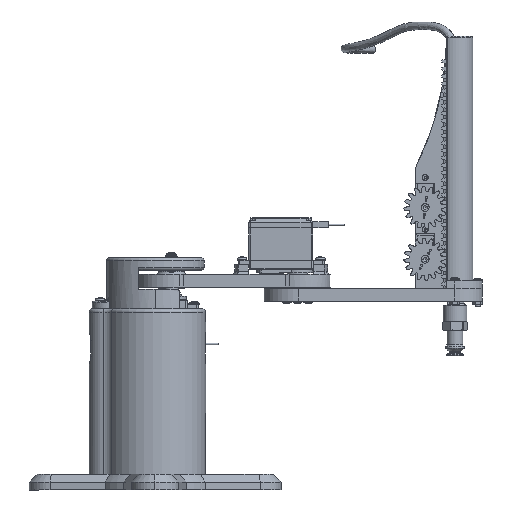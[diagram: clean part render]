
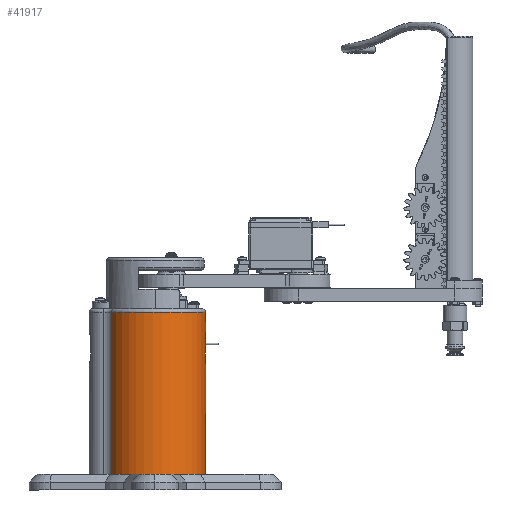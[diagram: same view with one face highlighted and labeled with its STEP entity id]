
A CAD part, front view. The second image highlights one B-rep face of the part: STEP entity #41917.
In plain terms, the highlighted cylindrical face has radius 32 mm (diameter 64 mm), a partial arc.
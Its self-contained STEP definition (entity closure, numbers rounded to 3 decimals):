
#2266=FACE_BOUND('',#13580,.T.);
#2580=B_SPLINE_CURVE_WITH_KNOTS('',3,(#60419,#60420,#60421,#60422,#60423,
#60424,#60425,#60426,#60427,#60428,#60429,#60430,#60431,#60432,#60433,#60434,
#60435,#60436),.UNSPECIFIED.,.F.,.F.,(4,2,2,2,2,2,2,2,4),(-1.509,
-1.321,-1.132,-0.943,-0.755,
-0.566,-0.377,-0.189,0.),
 .UNSPECIFIED.);
#2581=B_SPLINE_CURVE_WITH_KNOTS('',3,(#60439,#60440,#60441,#60442,#60443,
#60444,#60445,#60446,#60447,#60448,#60449,#60450,#60451,#60452,#60453,#60454,
#60455,#60456),.UNSPECIFIED.,.F.,.F.,(4,2,2,2,2,2,2,2,4),(0.,0.189,
0.377,0.566,0.755,0.943,
1.132,1.321,1.509),.UNSPECIFIED.);
#3501=LINE('',#60386,#7141);
#3506=LINE('',#60413,#7146);
#3507=LINE('',#60417,#7147);
#3508=LINE('',#60438,#7148);
#7141=VECTOR('',#48694,10.);
#7146=VECTOR('',#48719,10.);
#7147=VECTOR('',#48722,10.);
#7148=VECTOR('',#48723,10.);
#10779=CYLINDRICAL_SURFACE('',#44667,32.);
#11363=FACE_OUTER_BOUND('',#13579,.T.);
#13579=EDGE_LOOP('',(#28872,#28873,#28874,#28875));
#13580=EDGE_LOOP('',(#28876,#28877,#28878,#28879));
#16102=CIRCLE('',#44654,32.);
#16112=CIRCLE('',#44668,32.);
#17807=VERTEX_POINT('',#60314);
#17812=VERTEX_POINT('',#60328);
#17820=VERTEX_POINT('',#60385);
#17832=VERTEX_POINT('',#60412);
#17833=VERTEX_POINT('',#60415);
#17834=VERTEX_POINT('',#60416);
#17835=VERTEX_POINT('',#60418);
#17836=VERTEX_POINT('',#60437);
#22355=EDGE_CURVE('',#17812,#17807,#16102,.T.);
#22363=EDGE_CURVE('',#17820,#17807,#3501,.T.);
#22376=EDGE_CURVE('',#17832,#17812,#3506,.T.);
#22377=EDGE_CURVE('',#17820,#17832,#16112,.T.);
#22378=EDGE_CURVE('',#17833,#17834,#3507,.T.);
#22379=EDGE_CURVE('',#17834,#17835,#2580,.T.);
#22380=EDGE_CURVE('',#17835,#17836,#3508,.T.);
#22381=EDGE_CURVE('',#17836,#17833,#2581,.T.);
#28872=ORIENTED_EDGE('',*,*,#22355,.F.);
#28873=ORIENTED_EDGE('',*,*,#22376,.F.);
#28874=ORIENTED_EDGE('',*,*,#22377,.F.);
#28875=ORIENTED_EDGE('',*,*,#22363,.T.);
#28876=ORIENTED_EDGE('',*,*,#22378,.T.);
#28877=ORIENTED_EDGE('',*,*,#22379,.T.);
#28878=ORIENTED_EDGE('',*,*,#22380,.T.);
#28879=ORIENTED_EDGE('',*,*,#22381,.T.);
#41917=ADVANCED_FACE('',(#11363,#2266),#10779,.T.);
#44654=AXIS2_PLACEMENT_3D('',#60335,#48682,#48683);
#44667=AXIS2_PLACEMENT_3D('',#60411,#48717,#48718);
#44668=AXIS2_PLACEMENT_3D('',#60414,#48720,#48721);
#48682=DIRECTION('center_axis',(0.,0.,-1.));
#48683=DIRECTION('ref_axis',(0.,-1.,0.));
#48694=DIRECTION('',(0.,0.,-1.));
#48717=DIRECTION('center_axis',(0.,0.,-1.));
#48718=DIRECTION('ref_axis',(0.,-1.,0.));
#48719=DIRECTION('',(0.,0.,-1.));
#48720=DIRECTION('center_axis',(0.,0.,1.));
#48721=DIRECTION('ref_axis',(-0.484,0.875,0.));
#48722=DIRECTION('',(0.,0.,1.));
#48723=DIRECTION('',(0.,0.,-1.));
#60314=CARTESIAN_POINT('',(-15.492,28.,2.));
#60328=CARTESIAN_POINT('',(15.492,28.,2.));
#60335=CARTESIAN_POINT('Origin',(0.,0.,2.));
#60385=CARTESIAN_POINT('',(-15.492,28.,105.));
#60386=CARTESIAN_POINT('',(-15.492,28.,105.));
#60411=CARTESIAN_POINT('Origin',(0.,0.,105.));
#60412=CARTESIAN_POINT('',(15.492,28.,105.));
#60413=CARTESIAN_POINT('',(15.492,28.,105.));
#60414=CARTESIAN_POINT('Origin',(0.,0.,105.));
#60415=CARTESIAN_POINT('',(-5.,-31.607,20.));
#60416=CARTESIAN_POINT('',(-5.,-31.607,30.));
#60417=CARTESIAN_POINT('',(-5.,-31.607,105.));
#60418=CARTESIAN_POINT('',(5.,-31.607,30.));
#60419=CARTESIAN_POINT('Ctrl Pts',(-5.,-31.607,30.));
#60420=CARTESIAN_POINT('Ctrl Pts',(-5.,-31.607,
30.629));
#60421=CARTESIAN_POINT('Ctrl Pts',(-4.874,-31.628,
31.299));
#60422=CARTESIAN_POINT('Ctrl Pts',(-4.364,-31.702,
32.531));
#60423=CARTESIAN_POINT('Ctrl Pts',(-3.979,-31.755,33.092));
#60424=CARTESIAN_POINT('Ctrl Pts',(-3.092,-31.853,
33.979));
#60425=CARTESIAN_POINT('Ctrl Pts',(-2.531,-31.906,
34.364));
#60426=CARTESIAN_POINT('Ctrl Pts',(-1.299,-31.98,
34.874));
#60427=CARTESIAN_POINT('Ctrl Pts',(-0.629,-32.,35.));
#60428=CARTESIAN_POINT('Ctrl Pts',(0.629,-32.,35.));
#60429=CARTESIAN_POINT('Ctrl Pts',(1.299,-31.98,34.874));
#60430=CARTESIAN_POINT('Ctrl Pts',(2.531,-31.906,34.364));
#60431=CARTESIAN_POINT('Ctrl Pts',(3.092,-31.853,33.979));
#60432=CARTESIAN_POINT('Ctrl Pts',(3.979,-31.755,33.092));
#60433=CARTESIAN_POINT('Ctrl Pts',(4.364,-31.702,32.531));
#60434=CARTESIAN_POINT('Ctrl Pts',(4.874,-31.628,31.299));
#60435=CARTESIAN_POINT('Ctrl Pts',(5.,-31.607,30.629));
#60436=CARTESIAN_POINT('Ctrl Pts',(5.,-31.607,30.));
#60437=CARTESIAN_POINT('',(5.,-31.607,20.));
#60438=CARTESIAN_POINT('',(5.,-31.607,105.));
#60439=CARTESIAN_POINT('Ctrl Pts',(5.,-31.607,20.));
#60440=CARTESIAN_POINT('Ctrl Pts',(5.,-31.607,19.371));
#60441=CARTESIAN_POINT('Ctrl Pts',(4.874,-31.628,18.701));
#60442=CARTESIAN_POINT('Ctrl Pts',(4.364,-31.702,17.469));
#60443=CARTESIAN_POINT('Ctrl Pts',(3.979,-31.755,16.908));
#60444=CARTESIAN_POINT('Ctrl Pts',(3.092,-31.853,16.021));
#60445=CARTESIAN_POINT('Ctrl Pts',(2.531,-31.906,15.636));
#60446=CARTESIAN_POINT('Ctrl Pts',(1.299,-31.98,15.126));
#60447=CARTESIAN_POINT('Ctrl Pts',(0.629,-32.,15.));
#60448=CARTESIAN_POINT('Ctrl Pts',(-0.629,-32.,15.));
#60449=CARTESIAN_POINT('Ctrl Pts',(-1.299,-31.98,
15.126));
#60450=CARTESIAN_POINT('Ctrl Pts',(-2.531,-31.906,
15.636));
#60451=CARTESIAN_POINT('Ctrl Pts',(-3.092,-31.853,
16.021));
#60452=CARTESIAN_POINT('Ctrl Pts',(-3.979,-31.755,16.908));
#60453=CARTESIAN_POINT('Ctrl Pts',(-4.364,-31.702,
17.469));
#60454=CARTESIAN_POINT('Ctrl Pts',(-4.874,-31.628,
18.701));
#60455=CARTESIAN_POINT('Ctrl Pts',(-5.,-31.607,19.371));
#60456=CARTESIAN_POINT('Ctrl Pts',(-5.,-31.607,20.));
